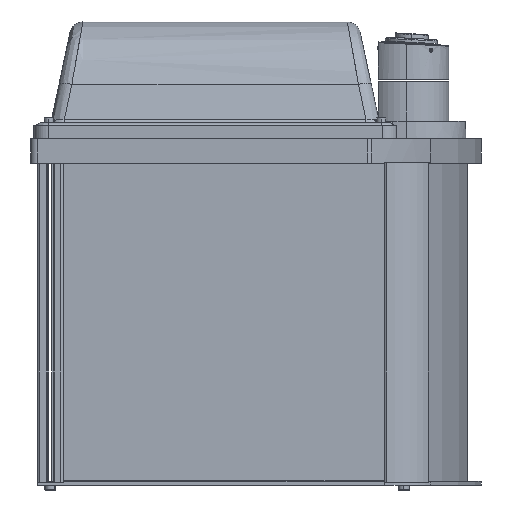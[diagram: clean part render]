
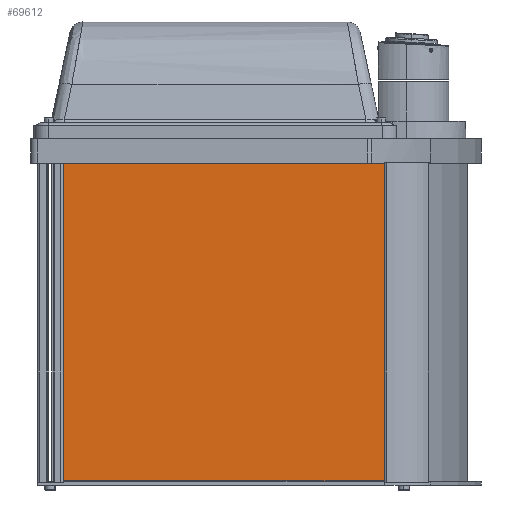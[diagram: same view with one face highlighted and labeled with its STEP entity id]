
A CAD part, left-side view. The second image highlights one B-rep face of the part: STEP entity #69612.
In plain terms, the highlighted free-form (B-spline) face has degree [1, 1] with [2, 2] control points.
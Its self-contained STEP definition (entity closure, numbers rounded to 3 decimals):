
#69612 = ADVANCED_FACE('',(#69613),#69627,.T.);
#69613 = FACE_BOUND('',#69614,.T.);
#69614 = EDGE_LOOP('',(#69615,#69637,#69652,#69667));
#69615 = ORIENTED_EDGE('',*,*,#69616,.T.);
#69616 = EDGE_CURVE('',#69617,#69619,#69621,.T.);
#69617 = VERTEX_POINT('',#69618);
#69618 = CARTESIAN_POINT('',(-156.672,11.575,-22.551));
#69619 = VERTEX_POINT('',#69620);
#69620 = CARTESIAN_POINT('',(-156.672,267.075,-22.551));
#69621 = SURFACE_CURVE('',#69622,(#69626),.PCURVE_S1.);
#69622 = LINE('',#69623,#69624);
#69623 = CARTESIAN_POINT('',(-156.672,11.575,-22.551));
#69624 = VECTOR('',#69625,1.);
#69625 = DIRECTION('',(0.,1.,0.));
#69626 = PCURVE('',#69627,#69632);
#69627 = B_SPLINE_SURFACE_WITH_KNOTS('',1,1,(
    (#69628,#69629)
    ,(#69630,#69631
    )),.UNSPECIFIED.,.F.,.F.,.F.,(2,2),(2,2),(0.,1.),(0.,1.),
  .PIECEWISE_BEZIER_KNOTS.);
#69628 = CARTESIAN_POINT('',(-156.672,11.575,221.449));
#69629 = CARTESIAN_POINT('',(-156.672,267.075,221.449));
#69630 = CARTESIAN_POINT('',(-156.672,11.575,-22.551));
#69631 = CARTESIAN_POINT('',(-156.672,267.075,-22.551));
#69632 = DEFINITIONAL_REPRESENTATION('',(#69633),#69636);
#69633 = B_SPLINE_CURVE_WITH_KNOTS('',1,(#69634,#69635),.UNSPECIFIED.,
  .F.,.F.,(2,2),(0.,255.5),.PIECEWISE_BEZIER_KNOTS.);
#69634 = CARTESIAN_POINT('',(1.,0.));
#69635 = CARTESIAN_POINT('',(1.,1.));
#69636 = ( GEOMETRIC_REPRESENTATION_CONTEXT(2) 
PARAMETRIC_REPRESENTATION_CONTEXT() REPRESENTATION_CONTEXT('',''
  ) );
#69637 = ORIENTED_EDGE('',*,*,#69638,.T.);
#69638 = EDGE_CURVE('',#69619,#69639,#69641,.T.);
#69639 = VERTEX_POINT('',#69640);
#69640 = CARTESIAN_POINT('',(-156.672,267.075,221.449));
#69641 = SURFACE_CURVE('',#69642,(#69646),.PCURVE_S1.);
#69642 = LINE('',#69643,#69644);
#69643 = CARTESIAN_POINT('',(-156.672,267.075,-22.551));
#69644 = VECTOR('',#69645,1.);
#69645 = DIRECTION('',(0.,0.,1.));
#69646 = PCURVE('',#69627,#69647);
#69647 = DEFINITIONAL_REPRESENTATION('',(#69648),#69651);
#69648 = B_SPLINE_CURVE_WITH_KNOTS('',1,(#69649,#69650),.UNSPECIFIED.,
  .F.,.F.,(2,2),(0.,244.),.PIECEWISE_BEZIER_KNOTS.);
#69649 = CARTESIAN_POINT('',(1.,1.));
#69650 = CARTESIAN_POINT('',(0.,1.));
#69651 = ( GEOMETRIC_REPRESENTATION_CONTEXT(2) 
PARAMETRIC_REPRESENTATION_CONTEXT() REPRESENTATION_CONTEXT('',''
  ) );
#69652 = ORIENTED_EDGE('',*,*,#69653,.T.);
#69653 = EDGE_CURVE('',#69639,#69654,#69656,.T.);
#69654 = VERTEX_POINT('',#69655);
#69655 = CARTESIAN_POINT('',(-156.672,11.575,221.449));
#69656 = SURFACE_CURVE('',#69657,(#69661),.PCURVE_S1.);
#69657 = LINE('',#69658,#69659);
#69658 = CARTESIAN_POINT('',(-156.672,267.075,221.449));
#69659 = VECTOR('',#69660,1.);
#69660 = DIRECTION('',(0.,-1.,0.));
#69661 = PCURVE('',#69627,#69662);
#69662 = DEFINITIONAL_REPRESENTATION('',(#69663),#69666);
#69663 = B_SPLINE_CURVE_WITH_KNOTS('',1,(#69664,#69665),.UNSPECIFIED.,
  .F.,.F.,(2,2),(0.,255.5),.PIECEWISE_BEZIER_KNOTS.);
#69664 = CARTESIAN_POINT('',(0.,1.));
#69665 = CARTESIAN_POINT('',(0.,0.));
#69666 = ( GEOMETRIC_REPRESENTATION_CONTEXT(2) 
PARAMETRIC_REPRESENTATION_CONTEXT() REPRESENTATION_CONTEXT('',''
  ) );
#69667 = ORIENTED_EDGE('',*,*,#69668,.T.);
#69668 = EDGE_CURVE('',#69654,#69617,#69669,.T.);
#69669 = SURFACE_CURVE('',#69670,(#69674),.PCURVE_S1.);
#69670 = LINE('',#69671,#69672);
#69671 = CARTESIAN_POINT('',(-156.672,11.575,221.449));
#69672 = VECTOR('',#69673,1.);
#69673 = DIRECTION('',(0.,0.,-1.));
#69674 = PCURVE('',#69627,#69675);
#69675 = DEFINITIONAL_REPRESENTATION('',(#69676),#69679);
#69676 = B_SPLINE_CURVE_WITH_KNOTS('',1,(#69677,#69678),.UNSPECIFIED.,
  .F.,.F.,(2,2),(0.,244.),.PIECEWISE_BEZIER_KNOTS.);
#69677 = CARTESIAN_POINT('',(0.,0.));
#69678 = CARTESIAN_POINT('',(1.,0.));
#69679 = ( GEOMETRIC_REPRESENTATION_CONTEXT(2) 
PARAMETRIC_REPRESENTATION_CONTEXT() REPRESENTATION_CONTEXT('',''
  ) );
